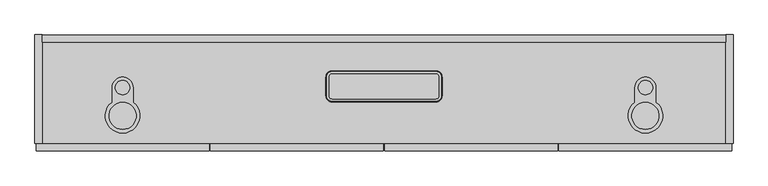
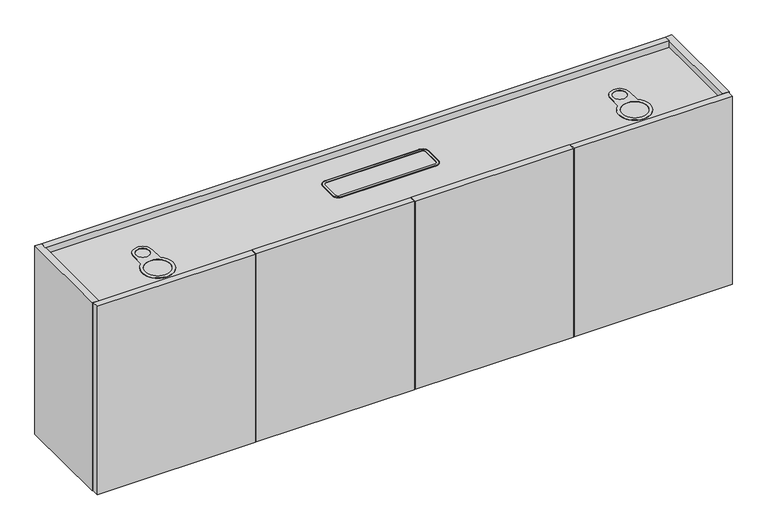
"""IFC4 building model written with IfcOpenShell, lengths in millimetres: furniture geometry, Geiger_GeigerOneCasegoods_UtilityCabinetForUseWithCredenzaDeskAccepts2Legs : Vertical Veneer 72Wx 12Dx 22.5H."""

from ifc_helpers import new_model, si_unit, point, frame, origin, place, context, project, spatial, polyline, circle_curve, ellipse_curve, trimmed, outline, extrude, faceted_brep, source, transform, mapped, element, save
from ifc_brep_helpers import plane_surface, cylinder_surface, revolved_surface, advanced_brep


def furniture_4e9a04d4(model_context):
    return source(origin(), model_context, "Body", "SolidModel", [
        extrude(outline(polyline([(1380.85, -19.5), (1380.85, -284.8), (1361.85, -284.8), (1361.85, -19.5), (1380.85, -19.5)])), frame((0.0, 0.0, 12.7), z_axis=(0.0, 0.0, 1.0), x_axis=(1.0, 0.0, 0.0)), (0.0, 0.0, 1.0), 533.5),
        extrude(outline(polyline([(456.45, -304.8), (3.0, -304.8), (3.0, -285.8), (456.45, -285.8), (456.45, -304.8)])), frame((0.0, 0.0, 12.7), z_axis=(0.0, 0.0, 1.0), x_axis=(1.0, 0.0, 0.0)), (0.0, 0.0, 1.0), 571.5),
        extrude(outline(polyline([(912.9, -304.8), (459.45, -304.8), (459.45, -285.8), (912.9, -285.8), (912.9, -304.8)])), frame((0.0, 0.0, 12.7), z_axis=(0.0, 0.0, 1.0), x_axis=(1.0, 0.0, 0.0)), (0.0, 0.0, 1.0), 571.5),
        extrude(outline(polyline([(1369.35, -304.8), (915.9, -304.8), (915.9, -285.8), (1369.35, -285.8), (1369.35, -304.8)])), frame((0.0, 0.0, 12.7), z_axis=(0.0, 0.0, 1.0), x_axis=(1.0, 0.0, 0.0)), (0.0, 0.0, 1.0), 571.5),
        extrude(outline(polyline([(1825.8, -304.8), (1372.35, -304.8), (1372.35, -285.8), (1825.8, -285.8), (1825.8, -304.8)])), frame((0.0, 0.0, 12.7), z_axis=(0.0, 0.0, 1.0), x_axis=(1.0, 0.0, 0.0)), (0.0, 0.0, 1.0), 571.5),
        faceted_brep([(1809.8, -19.5, 584.2), (1809.8, -19.5, 29.0), (1809.8, -0.5, 29.0), (1809.8, -0.5, 584.2), (1809.8, -284.3, 156.0), (1809.8, -284.3, 29.0), (1809.8, -265.3, 29.0), (1809.8, -265.3, 156.0), (19.0, -19.5, 584.2), (19.0, -0.5, 584.2), (19.0, -0.5, 29.0), (19.0, -19.5, 29.0), (19.0, -284.3, 156.0), (19.0, -265.3, 156.0), (19.0, -265.3, 29.0), (19.0, -284.3, 29.0), (447.95, -19.5, 29.0), (447.95, -19.5, 546.2), (466.95, -19.5, 546.2), (466.95, -19.5, 29.0), (466.95, -284.3, 156.0), (466.95, -284.3, 29.0), (447.95, -284.3, 29.0), (447.95, -284.3, 156.0), (466.95, -265.3, 29.0), (447.95, -265.3, 29.0), (466.95, -265.3, 156.0), (447.95, -265.3, 156.0), (447.95, -284.8, 12.7), (447.95, -284.8, 546.2), (447.95, -19.5, 12.7), (466.95, -284.8, 12.7), (466.95, -19.5, 12.7), (466.95, -284.8, 546.2)], [[[0, 1, 2, 3]], [[4, 5, 6, 7]], [[8, 9, 10, 11]], [[12, 13, 14, 15]], [[1, 0, 8, 11, 16, 17, 18, 19]], [[2, 1, 19, 16, 11, 10]], [[3, 2, 10, 9]], [[0, 3, 9, 8]], [[5, 4, 20, 21]], [[12, 15, 22, 23]], [[6, 5, 21, 24]], [[15, 14, 25, 22]], [[7, 6, 24, 26]], [[14, 13, 27, 25]], [[4, 7, 26, 20]], [[13, 12, 23, 27]], [[28, 29, 17, 16, 30], [23, 22, 25, 27]], [[31, 32, 19, 18, 33], [21, 20, 26, 24]], [[29, 28, 31, 33]], [[17, 29, 33, 18]], [[32, 30, 16, 19]], [[28, 30, 32, 31]]]),
        extrude(outline(polyline([(1809.8, -19.5), (1809.8, -284.8), (19.0, -284.8), (19.0, -19.5), (1809.8, -19.5)])), frame((0.0, 0.0, 546.2), z_axis=(0.0, 0.0, 1.0), x_axis=(1.0, 0.0, 0.0)), (0.0, 0.0, 1.0), 19.0),
        extrude(outline(polyline([(19.0, -284.8), (0.0, -284.8), (0.0, 0.0), (19.0, 0.0), (19.0, -284.8)])), frame((0.0, 0.0, 12.7), z_axis=(0.0, 0.0, 1.0), x_axis=(1.0, 0.0, 0.0)), (0.0, 0.0, 1.0), 571.5),
        extrude(outline(polyline([(1828.8, -284.8), (1809.8, -284.8), (1809.8, 0.0), (1828.8, 0.0), (1828.8, -284.8)])), frame((0.0, 0.0, 12.7), z_axis=(0.0, 0.0, 1.0), x_axis=(1.0, 0.0, 0.0)), (0.0, 0.0, 1.0), 571.5),
        advanced_brep(
        [(763.1203563, -110.825, 566.7), (778.3, -95.6453563, 566.7), (778.3, -94.4172964, 565.2), (761.8922964, -110.825, 565.2), (761.8922964, -160.025, 565.2), (763.1203563, -160.025, 566.7), (778.3, -176.4327036, 565.2), (778.3, -175.2046437, 566.7), (1050.5, -176.4327036, 565.2), (1050.5, -175.2046437, 566.7), (1066.9077036, -160.025, 565.2), (1065.6796437, -160.025, 566.7), (1066.9077036, -110.825, 565.2), (1065.6796437, -110.825, 566.7), (1050.5, -94.4172964, 565.2), (1050.5, -95.6453563, 566.7), (778.3, -102.925, 566.7), (1050.5, -102.925, 566.7), (1058.4, -110.825, 566.7), (1058.4, -160.025, 566.7), (1050.5, -167.925, 566.7), (778.3, -167.925, 566.7), (770.4, -160.025, 566.7), (770.4, -110.825, 566.7), (770.4, -110.825, 566.001635), (778.3, -102.925, 566.001635), (770.4, -160.025, 566.001635), (778.3, -167.925, 566.001635), (1050.5, -167.925, 566.001635), (1058.4, -160.025, 566.001635), (1058.4, -110.825, 566.001635), (1050.5, -102.925, 566.001635)],
        [
            (0, 1, circle_curve(frame((778.3, -110.825, 566.7), z_axis=(0.0, 0.0, -1.0), x_axis=(0.0, 1.0, 0.0)), 15.1796437)),
            (1, 2, circle_curve(frame((778.3, -95.6453563, 565.4472896), z_axis=(-1.0, 0.0, 0.0), x_axis=(0.0, -1.0, 0.0)), 1.2527104)),
            (2, 3, circle_curve(frame((778.3, -110.825, 565.2), z_axis=(0.0, 0.0, 1.0), x_axis=(0.0, 1.0, 0.0)), 16.4077036)),
            (3, 0, circle_curve(frame((763.1203563, -110.825, 565.4472896), z_axis=(0.0, 1.0, 0.0), x_axis=(1.0, 0.0, 0.0)), 1.2527104)),
            (3, 4),
            (4, 5, circle_curve(frame((763.1203563, -160.025, 565.4472896), z_axis=(0.0, 1.0, 0.0), x_axis=(1.0, 0.0, 0.0)), 1.2527104)),
            (5, 0),
            (4, 6, circle_curve(frame((778.3, -160.025, 565.2), z_axis=(0.0, 0.0, 1.0), x_axis=(-1.0, 0.0, 0.0)), 16.4077036)),
            (6, 7, circle_curve(frame((778.3, -175.2046437, 565.4472896), z_axis=(-1.0, 0.0, 0.0), x_axis=(0.0, 1.0, 0.0)), 1.2527104)),
            (7, 5, circle_curve(frame((778.3, -160.025, 566.7), z_axis=(0.0, 0.0, -1.0), x_axis=(-1.0, 0.0, 0.0)), 15.1796437)),
            (6, 8),
            (8, 9, circle_curve(frame((1050.5, -175.2046437, 565.4472896), z_axis=(-1.0, 0.0, 0.0), x_axis=(0.0, 1.0, 0.0)), 1.2527104)),
            (9, 7),
            (8, 10, circle_curve(frame((1050.5, -160.025, 565.2), z_axis=(0.0, 0.0, 1.0), x_axis=(0.0, -1.0, 0.0)), 16.4077036)),
            (10, 11, circle_curve(frame((1065.6796437, -160.025, 565.4472896), z_axis=(0.0, -1.0, 0.0), x_axis=(-1.0, 0.0, 0.0)), 1.2527104)),
            (11, 9, circle_curve(frame((1050.5, -160.025, 566.7), z_axis=(0.0, 0.0, -1.0), x_axis=(0.0, -1.0, 0.0)), 15.1796437)),
            (10, 12),
            (12, 13, circle_curve(frame((1065.6796437, -110.825, 565.4472896), z_axis=(0.0, -1.0, 0.0), x_axis=(-1.0, 0.0, 0.0)), 1.2527104)),
            (13, 11),
            (12, 14, circle_curve(frame((1050.5, -110.825, 565.2), z_axis=(0.0, 0.0, 1.0), x_axis=(1.0, 0.0, 0.0)), 16.4077036)),
            (14, 15, circle_curve(frame((1050.5, -95.6453563, 565.4472896), z_axis=(1.0, 0.0, 0.0), x_axis=(0.0, -1.0, 0.0)), 1.2527104)),
            (15, 13, circle_curve(frame((1050.5, -110.825, 566.7), z_axis=(0.0, 0.0, -1.0), x_axis=(1.0, 0.0, 0.0)), 15.1796437)),
            (1, 15),
            (14, 2),
            (16, 17),
            (17, 18, circle_curve(frame((1050.5, -110.825, 566.7), z_axis=(0.0, 0.0, -1.0), x_axis=(1.0, 0.0, 0.0)), 7.9)),
            (18, 19),
            (19, 20, circle_curve(frame((1050.5, -160.025, 566.7), z_axis=(0.0, 0.0, -1.0), x_axis=(0.0, -1.0, 0.0)), 7.9)),
            (20, 21),
            (21, 22, circle_curve(frame((778.3, -160.025, 566.7), z_axis=(0.0, 0.0, -1.0), x_axis=(-1.0, 0.0, 0.0)), 7.9)),
            (22, 23),
            (23, 16, circle_curve(frame((778.3, -110.825, 566.7), z_axis=(0.0, 0.0, -1.0), x_axis=(0.0, 1.0, 0.0)), 7.9)),
            (23, 24),
            (24, 25, circle_curve(frame((778.3, -110.825, 566.001635), z_axis=(0.0, 0.0, -1.0), x_axis=(0.0, 1.0, 0.0)), 7.9)),
            (25, 16),
            (22, 26),
            (26, 24),
            (21, 27),
            (27, 26, circle_curve(frame((778.3, -160.025, 566.001635), z_axis=(0.0, 0.0, -1.0), x_axis=(-1.0, 0.0, 0.0)), 7.9)),
            (20, 28),
            (28, 27),
            (19, 29),
            (29, 28, circle_curve(frame((1050.5, -160.025, 566.001635), z_axis=(0.0, 0.0, -1.0), x_axis=(0.0, -1.0, 0.0)), 7.9)),
            (18, 30),
            (30, 29),
            (17, 31),
            (31, 30, circle_curve(frame((1050.5, -110.825, 566.001635), z_axis=(0.0, 0.0, -1.0), x_axis=(1.0, 0.0, 0.0)), 7.9)),
            (25, 31),
        ],
        [
            revolved_surface(trimmed(ellipse_curve(frame((778.3, -95.6453563, 565.4472896), z_axis=(1.0, 0.0, 0.0), x_axis=(0.0, -1.0, 0.0)), 1.2527104, 1.2527104), [point((778.3, -94.4172964, 565.2))], [point((778.3, -95.6453563, 566.7))], True, "CARTESIAN"), (778.3, -110.825, 565.2), (0.0, 0.0, 1.0)),
            cylinder_surface(frame((763.1203563, -110.825, 565.4472896), z_axis=(0.0, 1.0, 0.0), x_axis=(1.0, 0.0, 0.0)), 1.2527104),
            revolved_surface(trimmed(ellipse_curve(frame((763.1203563, -160.025, 565.4472896), z_axis=(0.0, 1.0, 0.0), x_axis=(1.0, 0.0, 0.0)), 1.2527104, 1.2527104), [point((761.8922964, -160.025, 565.2))], [point((763.1203563, -160.025, 566.7))], True, "CARTESIAN"), (778.3, -160.025, 565.2), (0.0, 0.0, 1.0)),
            cylinder_surface(frame((778.3, -175.2046437, 565.4472896), z_axis=(-1.0, 0.0, 0.0), x_axis=(0.0, 1.0, 0.0)), 1.2527104),
            revolved_surface(trimmed(ellipse_curve(frame((1050.5, -175.2046437, 565.4472896), z_axis=(-1.0, 0.0, 0.0), x_axis=(0.0, 1.0, 0.0)), 1.2527104, 1.2527104), [point((1050.5, -176.4327036, 565.2))], [point((1050.5, -175.2046437, 566.7))], True, "CARTESIAN"), (1050.5, -160.025, 565.2), (0.0, 0.0, 1.0)),
            cylinder_surface(frame((1065.6796437, -160.025, 565.4472896), z_axis=(0.0, -1.0, 0.0), x_axis=(-1.0, 0.0, 0.0)), 1.2527104),
            revolved_surface(trimmed(ellipse_curve(frame((1065.6796437, -110.825, 565.4472896), z_axis=(0.0, -1.0, 0.0), x_axis=(-1.0, 0.0, 0.0)), 1.2527104, 1.2527104), [point((1066.9077036, -110.825, 565.2))], [point((1065.6796437, -110.825, 566.7))], True, "CARTESIAN"), (1050.5, -110.825, 565.2), (0.0, 0.0, 1.0)),
            cylinder_surface(frame((1050.5, -95.6453563, 565.4472896), z_axis=(1.0, 0.0, 0.0), x_axis=(0.0, -1.0, 0.0)), 1.2527104),
            plane_surface(frame((1050.5, -95.6453563, 566.7), z_axis=(0.0, 0.0, 1.0), x_axis=(-1.0, 0.0, 0.0))),
            revolved_surface(polyline([(778.3, -102.925, 566.7), (778.3, -102.925, 566.001635)]), (778.3, -110.825, 565.2), (0.0, 0.0, 1.0)),
            plane_surface(frame((770.4, -110.825, 566.7), z_axis=(1.0, 0.0, 0.0), x_axis=(0.0, -1.0, 0.0))),
            revolved_surface(polyline([(770.4, -160.025, 566.7), (770.4, -160.025, 566.001635)]), (778.3, -160.025, 565.2), (0.0, 0.0, 1.0)),
            plane_surface(frame((778.3, -167.925, 566.7), z_axis=(0.0, 1.0, 0.0), x_axis=(1.0, 0.0, 0.0))),
            revolved_surface(polyline([(1050.5, -167.925, 566.7), (1050.5, -167.925, 566.001635)]), (1050.5, -160.025, 565.2), (0.0, 0.0, 1.0)),
            plane_surface(frame((1058.4, -160.025, 566.7), z_axis=(-1.0, 0.0, 0.0), x_axis=(0.0, 1.0, 0.0))),
            revolved_surface(polyline([(1058.4, -110.825, 566.7), (1058.4, -110.825, 566.001635)]), (1050.5, -110.825, 565.2), (0.0, 0.0, 1.0)),
            plane_surface(frame((1050.5, -102.925, 566.7), z_axis=(0.0, -1.0, 0.0), x_axis=(-1.0, 0.0, 0.0))),
            plane_surface(frame((1050.5, -102.925, 565.2), z_axis=(0.0, 0.0, -1.0), x_axis=(-1.0, 0.0, 0.0))),
            plane_surface(frame((778.3, -102.925, 566.001635), z_axis=(0.0, 0.0, 1.0), x_axis=(-1.0, 0.0, 0.0))),
        ],
        [
            (0, [[1, 2, 3, 4]]),
            (1, [[-4, 5, 6, 7]]),
            (2, [[-6, 8, 9, 10]]),
            (3, [[-9, 11, 12, 13]]),
            (4, [[-12, 14, 15, 16]]),
            (5, [[-15, 17, 18, 19]]),
            (6, [[-18, 20, 21, 22]]),
            (7, [[-2, 23, -21, 24]]),
            (8, [[-1, -7, -10, -13, -16, -19, -22, -23], [25, 26, 27, 28, 29, 30, 31, 32]]),
            (9, [[-32, 33, 34, 35]]),
            (10, [[-31, 36, 37, -33]]),
            (11, [[-30, 38, 39, -36]]),
            (12, [[-29, 40, 41, -38]]),
            (13, [[-28, 42, 43, -40]]),
            (14, [[-27, 44, 45, -42]]),
            (15, [[-26, 46, 47, -44]]),
            (16, [[-25, -35, 48, -46]]),
            (17, [[-3, -24, -20, -17, -14, -11, -8, -5]]),
            (18, [[-34, -37, -39, -41, -43, -45, -47, -48]]),
        ],
    ),
        advanced_brep(
        [(257.1, -177.1090661, 565.2), (202.1, -177.1090661, 565.2), (202.1, -138.6393843, 565.2), (257.1, -138.6393843, 565.2), (257.1, -177.1090661, 566.8), (257.1, -138.6393843, 566.8), (202.1, -138.6393843, 566.8), (202.1, -177.1090661, 566.8), (229.6, -157.5707393, 566.8), (229.6, -119.7080294, 566.8), (229.6, -248.2790899, 566.8), (229.6, -177.4196387, 566.8), (229.6, -157.5707393, 566.001635), (229.6, -119.7080294, 566.001635), (229.6, -248.2790899, 566.001635), (229.6, -177.4196387, 566.001635)],
        [
            (0, 1, circle_curve(frame((229.6, -212.8493643, 565.2), z_axis=(0.0, 0.0, -1.0), x_axis=(0.0, 1.0, 0.0)), 45.095664)),
            (1, 2),
            (2, 3, circle_curve(frame((229.6, -138.6393843, 565.2), z_axis=(0.0, 0.0, -1.0), x_axis=(0.0, 1.0, 0.0)), 27.5)),
            (3, 0),
            (4, 5),
            (5, 6, circle_curve(frame((229.6, -138.6393843, 566.8), z_axis=(0.0, 0.0, 1.0), x_axis=(0.0, 1.0, 0.0)), 27.5)),
            (6, 7),
            (7, 4, circle_curve(frame((229.6, -212.8493643, 566.8), z_axis=(0.0, 0.0, 1.0), x_axis=(0.0, 1.0, 0.0)), 45.095664)),
            (8, 9, circle_curve(frame((229.6, -138.6393843, 566.8), z_axis=(0.0, 0.0, -1.0), x_axis=(0.0, 1.0, 0.0)), 18.931355)),
            (9, 8, circle_curve(frame((229.6, -138.6393843, 566.8), z_axis=(0.0, 0.0, -1.0), x_axis=(0.0, 1.0, 0.0)), 18.931355)),
            (10, 11, circle_curve(frame((229.6, -212.8493643, 566.8), z_axis=(0.0, 0.0, -1.0), x_axis=(0.0, 1.0, 0.0)), 35.4297256)),
            (11, 10, circle_curve(frame((229.6, -212.8493643, 566.8), z_axis=(0.0, 0.0, -1.0), x_axis=(0.0, 1.0, 0.0)), 35.4297256)),
            (3, 5),
            (4, 0),
            (2, 6),
            (1, 7),
            (8, 12),
            (12, 13, circle_curve(frame((229.6, -138.6393843, 566.001635), z_axis=(0.0, 0.0, -1.0), x_axis=(0.0, 1.0, 0.0)), 18.931355)),
            (13, 9),
            (13, 12, circle_curve(frame((229.6, -138.6393843, 566.001635), z_axis=(0.0, 0.0, -1.0), x_axis=(0.0, 1.0, 0.0)), 18.931355)),
            (10, 14),
            (14, 15, circle_curve(frame((229.6, -212.8493643, 566.001635), z_axis=(0.0, 0.0, -1.0), x_axis=(0.0, 1.0, 0.0)), 35.4297256)),
            (15, 11),
            (15, 14, circle_curve(frame((229.6, -212.8493643, 566.001635), z_axis=(0.0, 0.0, -1.0), x_axis=(0.0, 1.0, 0.0)), 35.4297256)),
        ],
        [
            plane_surface(frame((229.6, -265.3, 565.2), z_axis=(0.0, 0.0, -1.0), x_axis=(-1.0, 0.0, 0.0))),
            plane_surface(frame((229.6, -265.3, 566.8), z_axis=(0.0, 0.0, 1.0), x_axis=(-1.0, 0.0, 0.0))),
            plane_surface(frame((257.1, -138.6393843, 565.2), z_axis=(1.0, 0.0, 0.0), x_axis=(0.0, 0.0, 1.0))),
            cylinder_surface(frame((229.6, -138.6393843, 565.2), z_axis=(0.0, 0.0, -1.0), x_axis=(0.0, 1.0, 0.0)), 27.5),
            plane_surface(frame((202.1, -177.1090661, 565.2), z_axis=(-1.0, 0.0, 0.0), x_axis=(0.0, 0.0, 1.0))),
            cylinder_surface(frame((229.6, -212.8493643, 565.2), z_axis=(0.0, 0.0, -1.0), x_axis=(0.0, 1.0, 0.0)), 45.095664),
            revolved_surface(polyline([(229.6, -119.70802929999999, 566.8), (229.6, -119.70802929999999, 566.001635)]), (229.6, -138.6393843, 565.2), (0.0, 0.0, 1.0)),
            revolved_surface(polyline([(229.6, -177.4196387, 566.8), (229.6, -177.4196387, 566.001635)]), (229.6, -212.8493643, 565.2), (0.0, 0.0, 1.0)),
            plane_surface(frame((210.668645, -138.6393843, 566.001635), z_axis=(0.0, 0.0, 1.0), x_axis=(0.0, -1.0, 0.0))),
        ],
        [
            (0, [[1, 2, 3, 4]]),
            (1, [[5, 6, 7, 8], [9, 10], [11, 12]]),
            (2, [[-4, 13, -5, 14]]),
            (3, [[-3, 15, -6, -13]]),
            (4, [[-2, 16, -7, -15]]),
            (5, [[-1, -14, -8, -16]]),
            (6, [[-9, 17, 18, 19]]),
            (6, [[-10, -19, 20, -17]]),
            (7, [[-11, 21, 22, 23]]),
            (7, [[-12, -23, 24, -21]]),
            (8, [[-18, -20]]),
            (8, [[-22, -24]]),
        ],
    ),
        advanced_brep(
        [(1571.7, -177.1090661, 565.2), (1571.7, -138.6393843, 565.2), (1626.7, -138.6393843, 565.2), (1626.7, -177.1090661, 565.2), (1571.7, -177.1090661, 566.8), (1626.7, -177.1090661, 566.8), (1626.7, -138.6393843, 566.8), (1571.7, -138.6393843, 566.8), (1599.2, -119.7080294, 566.8), (1599.2, -157.5707393, 566.8), (1599.2, -177.4196387, 566.8), (1599.2, -248.2790899, 566.8), (1599.2, -157.5707393, 566.1909845), (1599.2, -119.7080294, 566.1909845), (1599.2, -248.2790899, 566.1909845), (1599.2, -177.4196387, 566.1909845)],
        [
            (0, 1),
            (1, 2, circle_curve(frame((1599.2, -138.6393843, 565.2), z_axis=(0.0, 0.0, -1.0), x_axis=(0.0, -1.0, 0.0)), 27.5)),
            (2, 3),
            (3, 0, circle_curve(frame((1599.2, -212.8493643, 565.2), z_axis=(0.0, 0.0, -1.0), x_axis=(0.0, -1.0, 0.0)), 45.095664)),
            (4, 5, circle_curve(frame((1599.2, -212.8493643, 566.8), z_axis=(0.0, 0.0, 1.0), x_axis=(0.0, -1.0, 0.0)), 45.095664)),
            (5, 6),
            (6, 7, circle_curve(frame((1599.2, -138.6393843, 566.8), z_axis=(0.0, 0.0, 1.0), x_axis=(0.0, -1.0, 0.0)), 27.5)),
            (7, 4),
            (8, 9, circle_curve(frame((1599.2, -138.6393843, 566.8), z_axis=(0.0, 0.0, -1.0), x_axis=(0.0, -1.0, 0.0)), 18.931355)),
            (9, 8, circle_curve(frame((1599.2, -138.6393843, 566.8), z_axis=(0.0, 0.0, -1.0), x_axis=(0.0, -1.0, 0.0)), 18.931355)),
            (10, 11, circle_curve(frame((1599.2, -212.8493643, 566.8), z_axis=(0.0, 0.0, -1.0), x_axis=(0.0, -1.0, 0.0)), 35.4297256)),
            (11, 10, circle_curve(frame((1599.2, -212.8493643, 566.8), z_axis=(0.0, 0.0, -1.0), x_axis=(0.0, -1.0, 0.0)), 35.4297256)),
            (0, 4),
            (7, 1),
            (6, 2),
            (5, 3),
            (9, 12),
            (12, 13, circle_curve(frame((1599.2, -138.6393843, 566.1909845), z_axis=(0.0, 0.0, -1.0), x_axis=(0.0, -1.0, 0.0)), 18.931355)),
            (13, 8),
            (13, 12, circle_curve(frame((1599.2, -138.6393843, 566.1909845), z_axis=(0.0, 0.0, -1.0), x_axis=(0.0, -1.0, 0.0)), 18.931355)),
            (11, 14),
            (14, 15, circle_curve(frame((1599.2, -212.8493643, 566.1909845), z_axis=(0.0, 0.0, -1.0), x_axis=(0.0, -1.0, 0.0)), 35.4297256)),
            (15, 10),
            (15, 14, circle_curve(frame((1599.2, -212.8493643, 566.1909845), z_axis=(0.0, 0.0, -1.0), x_axis=(0.0, -1.0, 0.0)), 35.4297256)),
        ],
        [
            plane_surface(frame((1599.2, -265.3, 565.2), z_axis=(0.0, 0.0, -1.0), x_axis=(1.0, 0.0, 0.0))),
            plane_surface(frame((1599.2, -265.3, 566.8), z_axis=(0.0, 0.0, 1.0), x_axis=(1.0, 0.0, 0.0))),
            plane_surface(frame((1571.7, -177.1090661, 565.2), z_axis=(-1.0, 0.0, 0.0), x_axis=(0.0, 0.0, 1.0))),
            cylinder_surface(frame((1599.2, -138.6393843, 565.2), z_axis=(0.0, 0.0, -1.0), x_axis=(0.0, -1.0, 0.0)), 27.5),
            plane_surface(frame((1626.7, -138.6393843, 565.2), z_axis=(1.0, 0.0, 0.0), x_axis=(0.0, 0.0, 1.0))),
            cylinder_surface(frame((1599.2, -212.8493643, 565.2), z_axis=(0.0, 0.0, -1.0), x_axis=(0.0, -1.0, 0.0)), 45.095664),
            revolved_surface(polyline([(1599.2, -157.57073929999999, 566.8), (1599.2, -157.57073929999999, 566.1909845)]), (1599.2, -138.6393843, 565.2), (0.0, 0.0, 1.0)),
            revolved_surface(polyline([(1599.2, -248.27908989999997, 566.8), (1599.2, -248.27908989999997, 566.1909845)]), (1599.2, -212.8493643, 565.2), (0.0, 0.0, 1.0)),
            plane_surface(frame((1580.268645, -138.6393843, 566.1909845), z_axis=(0.0, 0.0, 1.0), x_axis=(0.0, -1.0, 0.0))),
        ],
        [
            (0, [[1, 2, 3, 4]]),
            (1, [[5, 6, 7, 8], [9, 10], [11, 12]]),
            (2, [[-1, 13, -8, 14]]),
            (3, [[-2, -14, -7, 15]]),
            (4, [[-3, -15, -6, 16]]),
            (5, [[-4, -16, -5, -13]]),
            (6, [[-10, 17, 18, 19]]),
            (6, [[-9, -19, 20, -17]]),
            (7, [[-12, 21, 22, 23]]),
            (7, [[-11, -23, 24, -21]]),
            (8, [[-18, -20]]),
            (8, [[-22, -24]]),
        ],
    ),
    ])


if __name__ == "__main__":
    model = new_model("IFC4")
    model_context = context("Model", 3, world=origin())
    ifc_project = project(units=[si_unit("LENGTHUNIT", "METRE", prefix="MILLI")], contexts=[model_context])
    site = spatial("IfcSite", under=ifc_project)
    building = spatial("IfcBuilding", under=site)
    placement = place(None, origin())
    furniture_shape = furniture_4e9a04d4(model_context)
    element("IfcFurniture", 1, ObjectType="Geiger_GeigerOneCasegoods_UtilityCabinetForUseWithCredenzaDeskAccepts2Legs : Vertical Veneer 72Wx 12Dx 22.5H", at=placement, inside=building, context=model_context, shape_type="MappedRepresentation", body=[
        mapped(furniture_shape, transform((0.0, 0.0, 0.0), x_axis=(1.0, 0.0, 0.0), y_axis=(0.0, 1.0, 0.0), z_axis=(0.0, 0.0, 1.0))),
    ])
    save(model, "model.ifc")
